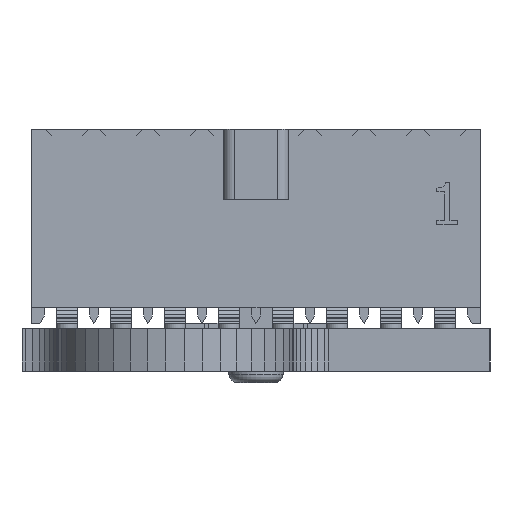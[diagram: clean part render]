
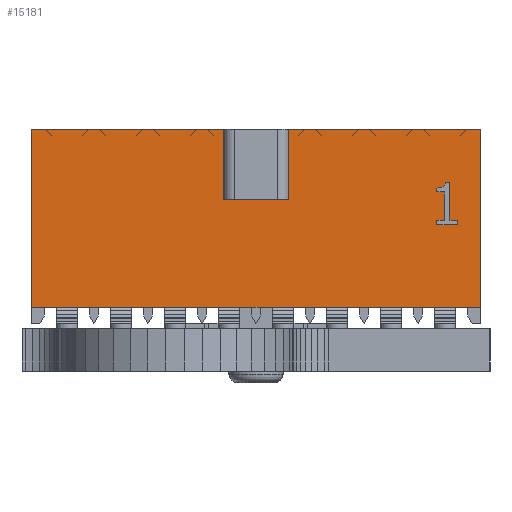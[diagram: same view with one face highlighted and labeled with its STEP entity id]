
A CAD part, left-side view. The second image highlights one B-rep face of the part: STEP entity #15181.
In plain terms, the highlighted planar face has unit normal (-1, 0, 0).
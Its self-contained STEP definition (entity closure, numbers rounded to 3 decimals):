
#23=B_SPLINE_CURVE_WITH_KNOTS('',2,(#22036,#22037,#22038,#22039),
 .UNSPECIFIED.,.F.,.F.,(3,1,3),(0.,1.,2.),.UNSPECIFIED.);
#360=FACE_BOUND('',#2275,.T.);
#528=PLANE('',#16126);
#1376=FACE_OUTER_BOUND('',#2274,.T.);
#2274=EDGE_LOOP('',(#11401,#11402,#11403,#11404,#11405,#11406,#11407,#11408));
#2275=EDGE_LOOP('',(#11409,#11410,#11411,#11412,#11413,#11414,#11415,#11416,
#11417,#11418,#11419));
#3333=LINE('',#22024,#5129);
#3337=LINE('',#22043,#5133);
#3339=LINE('',#22047,#5135);
#3341=LINE('',#22051,#5137);
#3343=LINE('',#22055,#5139);
#3344=LINE('',#22058,#5140);
#3346=LINE('',#22062,#5142);
#3348=LINE('',#22066,#5144);
#3350=LINE('',#22070,#5146);
#3352=LINE('',#22073,#5148);
#3357=LINE('',#22085,#5153);
#3544=LINE('',#22459,#5340);
#3545=LINE('',#22461,#5341);
#3546=LINE('',#22463,#5342);
#3547=LINE('',#22465,#5343);
#3548=LINE('',#22467,#5344);
#3549=LINE('',#22469,#5345);
#3550=LINE('',#22470,#5346);
#5129=VECTOR('',#17677,1.);
#5133=VECTOR('',#17683,1.);
#5135=VECTOR('',#17687,1.);
#5137=VECTOR('',#17691,1.);
#5139=VECTOR('',#17695,1.);
#5140=VECTOR('',#17698,1.);
#5142=VECTOR('',#17702,1.);
#5144=VECTOR('',#17706,1.);
#5146=VECTOR('',#17710,1.);
#5148=VECTOR('',#17714,1.);
#5153=VECTOR('',#17721,1.);
#5340=VECTOR('',#17912,1.);
#5341=VECTOR('',#17913,1.);
#5342=VECTOR('',#17914,1.);
#5343=VECTOR('',#17915,1.);
#5344=VECTOR('',#17916,1.);
#5345=VECTOR('',#17917,1.);
#5346=VECTOR('',#17918,1.);
#7248=VERTEX_POINT('',#22021);
#7249=VERTEX_POINT('',#22023);
#7250=VERTEX_POINT('',#22034);
#7251=VERTEX_POINT('',#22041);
#7252=VERTEX_POINT('',#22045);
#7253=VERTEX_POINT('',#22049);
#7254=VERTEX_POINT('',#22053);
#7255=VERTEX_POINT('',#22057);
#7256=VERTEX_POINT('',#22061);
#7257=VERTEX_POINT('',#22065);
#7258=VERTEX_POINT('',#22069);
#7263=VERTEX_POINT('',#22082);
#7264=VERTEX_POINT('',#22084);
#7449=VERTEX_POINT('',#22458);
#7450=VERTEX_POINT('',#22460);
#7451=VERTEX_POINT('',#22462);
#7452=VERTEX_POINT('',#22464);
#7453=VERTEX_POINT('',#22466);
#7454=VERTEX_POINT('',#22468);
#8747=EDGE_CURVE('',#7249,#7248,#3333,.T.);
#8750=EDGE_CURVE('',#7248,#7250,#23,.T.);
#8752=EDGE_CURVE('',#7250,#7251,#3337,.T.);
#8754=EDGE_CURVE('',#7251,#7252,#3339,.T.);
#8756=EDGE_CURVE('',#7252,#7253,#3341,.T.);
#8758=EDGE_CURVE('',#7253,#7254,#3343,.T.);
#8759=EDGE_CURVE('',#7255,#7249,#3344,.T.);
#8761=EDGE_CURVE('',#7256,#7255,#3346,.T.);
#8763=EDGE_CURVE('',#7257,#7256,#3348,.T.);
#8765=EDGE_CURVE('',#7258,#7257,#3350,.T.);
#8767=EDGE_CURVE('',#7254,#7258,#3352,.T.);
#8772=EDGE_CURVE('',#7264,#7263,#3357,.T.);
#8959=EDGE_CURVE('',#7449,#7263,#3544,.T.);
#8960=EDGE_CURVE('',#7450,#7449,#3545,.T.);
#8961=EDGE_CURVE('',#7451,#7450,#3546,.T.);
#8962=EDGE_CURVE('',#7452,#7451,#3547,.T.);
#8963=EDGE_CURVE('',#7453,#7452,#3548,.T.);
#8964=EDGE_CURVE('',#7454,#7453,#3549,.T.);
#8965=EDGE_CURVE('',#7454,#7264,#3550,.T.);
#11401=ORIENTED_EDGE('',*,*,#8772,.T.);
#11402=ORIENTED_EDGE('',*,*,#8959,.F.);
#11403=ORIENTED_EDGE('',*,*,#8960,.F.);
#11404=ORIENTED_EDGE('',*,*,#8961,.F.);
#11405=ORIENTED_EDGE('',*,*,#8962,.F.);
#11406=ORIENTED_EDGE('',*,*,#8963,.F.);
#11407=ORIENTED_EDGE('',*,*,#8964,.F.);
#11408=ORIENTED_EDGE('',*,*,#8965,.T.);
#11409=ORIENTED_EDGE('',*,*,#8747,.T.);
#11410=ORIENTED_EDGE('',*,*,#8750,.T.);
#11411=ORIENTED_EDGE('',*,*,#8752,.T.);
#11412=ORIENTED_EDGE('',*,*,#8754,.T.);
#11413=ORIENTED_EDGE('',*,*,#8756,.T.);
#11414=ORIENTED_EDGE('',*,*,#8758,.T.);
#11415=ORIENTED_EDGE('',*,*,#8767,.T.);
#11416=ORIENTED_EDGE('',*,*,#8765,.T.);
#11417=ORIENTED_EDGE('',*,*,#8763,.T.);
#11418=ORIENTED_EDGE('',*,*,#8761,.T.);
#11419=ORIENTED_EDGE('',*,*,#8759,.T.);
#15181=ADVANCED_FACE('',(#1376,#360),#528,.T.);
#16126=AXIS2_PLACEMENT_3D('',#22457,#17910,#17911);
#17677=DIRECTION('',(0.,0.,1.));
#17683=DIRECTION('',(0.,-1.,0.));
#17687=DIRECTION('',(0.,0.,-1.));
#17691=DIRECTION('',(0.,-1.,0.));
#17695=DIRECTION('',(0.,0.,-1.));
#17698=DIRECTION('',(0.,1.,0.));
#17702=DIRECTION('',(0.,0.,1.));
#17706=DIRECTION('',(0.,-1.,0.));
#17710=DIRECTION('',(0.,0.,1.));
#17714=DIRECTION('',(0.,1.,0.));
#17721=DIRECTION('',(0.,-1.,0.));
#17910=DIRECTION('center_axis',(-1.,0.,
0.));
#17911=DIRECTION('ref_axis',(0.,1.,0.));
#17912=DIRECTION('',(0.,0.,-1.));
#17913=DIRECTION('',(0.,-1.,0.));
#17914=DIRECTION('',(0.,0.,1.));
#17915=DIRECTION('',(0.,-1.,0.));
#17916=DIRECTION('',(0.,0.,-1.));
#17917=DIRECTION('',(0.,-1.,0.));
#17918=DIRECTION('',(0.,0.,-1.));
#22021=CARTESIAN_POINT('',(8.226,1.252,3.311));
#22023=CARTESIAN_POINT('',(8.226,1.252,3.219));
#22024=CARTESIAN_POINT('',(8.226,1.252,4.005));
#22034=CARTESIAN_POINT('',(8.226,1.045,3.45));
#22036=CARTESIAN_POINT('Ctrl Pts',(8.226,1.252,3.311));
#22037=CARTESIAN_POINT('Ctrl Pts',(8.226,1.149,3.311));
#22038=CARTESIAN_POINT('Ctrl Pts',(8.226,1.052,3.369));
#22039=CARTESIAN_POINT('Ctrl Pts',(8.226,1.045,3.45));
#22041=CARTESIAN_POINT('',(8.226,0.941,3.45));
#22043=CARTESIAN_POINT('',(8.226,5.856,3.45));
#22045=CARTESIAN_POINT('',(8.226,0.941,2.549));
#22047=CARTESIAN_POINT('',(8.226,0.941,3.624));
#22049=CARTESIAN_POINT('',(8.226,0.764,2.549));
#22051=CARTESIAN_POINT('',(8.226,5.767,2.549));
#22053=CARTESIAN_POINT('',(8.226,0.764,2.447));
#22055=CARTESIAN_POINT('',(8.226,0.764,3.573));
#22057=CARTESIAN_POINT('',(8.226,1.07,3.219));
#22058=CARTESIAN_POINT('',(8.226,6.011,3.219));
#22061=CARTESIAN_POINT('',(8.226,1.07,2.549));
#22062=CARTESIAN_POINT('',(8.226,1.07,3.959));
#22065=CARTESIAN_POINT('',(8.226,1.252,2.549));
#22066=CARTESIAN_POINT('',(8.226,5.92,2.549));
#22069=CARTESIAN_POINT('',(8.226,1.252,2.447));
#22070=CARTESIAN_POINT('',(8.226,1.252,3.624));
#22073=CARTESIAN_POINT('',(8.226,6.011,2.447));
#22082=CARTESIAN_POINT('',(8.226,0.23,0.508));
#22084=CARTESIAN_POINT('',(8.226,10.771,0.508));
#22085=CARTESIAN_POINT('',(8.226,10.771,0.508));
#22457=CARTESIAN_POINT('Origin',(8.226,10.771,4.699));
#22458=CARTESIAN_POINT('',(8.226,0.23,4.699));
#22459=CARTESIAN_POINT('',(8.226,0.23,4.699));
#22460=CARTESIAN_POINT('',(8.226,4.738,4.699));
#22461=CARTESIAN_POINT('',(8.226,10.771,4.699));
#22462=CARTESIAN_POINT('',(8.226,4.738,3.048));
#22463=CARTESIAN_POINT('',(8.226,4.738,4.699));
#22464=CARTESIAN_POINT('',(8.226,6.262,3.048));
#22465=CARTESIAN_POINT('',(8.226,6.262,3.048));
#22466=CARTESIAN_POINT('',(8.226,6.262,4.699));
#22467=CARTESIAN_POINT('',(8.226,6.262,4.699));
#22468=CARTESIAN_POINT('',(8.226,10.771,4.699));
#22469=CARTESIAN_POINT('',(8.226,10.771,4.699));
#22470=CARTESIAN_POINT('',(8.226,10.771,4.699));
